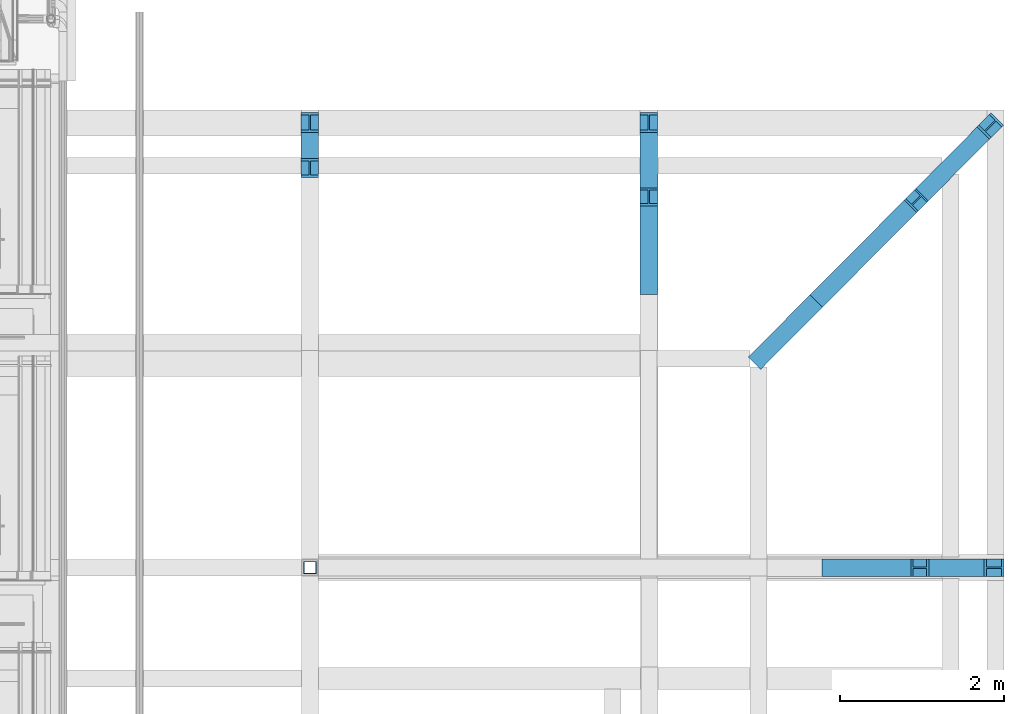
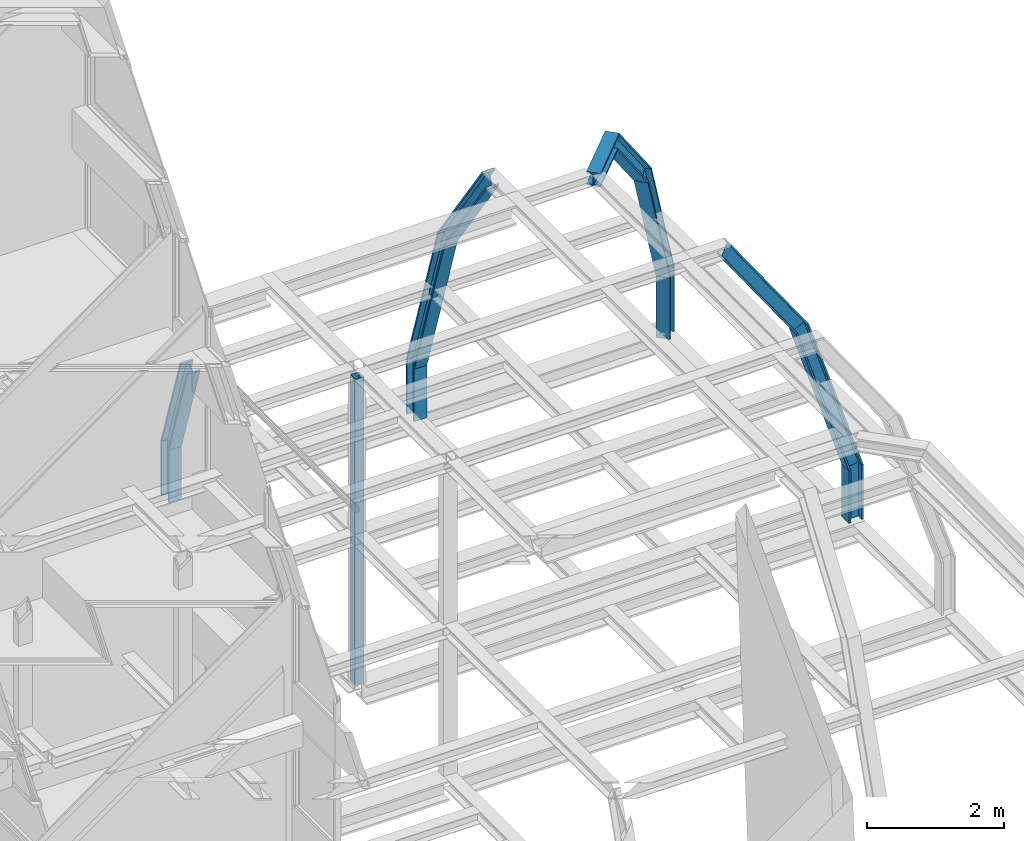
# One storey, part 3 of 583: 13 columns.
"""IFC2X3 building model written with IfcOpenShell, lengths in metres."""

import ifcopenshell
import ifcopenshell.guid

model = None  # the IFC model being written
_history = None  # IfcOwnerHistory: only IFC2X3 demands one
_inside = {}  # id of a spatial element -> (the spatial element, [elements in it])
_under = {}  # id of a project, library or spatial element -> (it, [spatial elements below it])
_declared = {}  # id of a project -> (the project, [libraries it declares])
_typed = {}  # id of a type object -> (the type object, [elements of that type])
_made_of = {}  # id of a material, layer set ... -> (it, [elements and type objects made of it])


def new_model(schema):
    """Start an empty IFC model of exactly this schema.

    Asked for "IFC4X3", IfcOpenShell would pick the latest addendum, in which some entities
    have other attributes; the version numbers below select the first issue.
    IFC2X3 requires an IfcOwnerHistory on every rooted entity: one is made here for all.
    """
    global model, _history
    if schema == "IFC4X3":
        model = ifcopenshell.file(schema_version=(4, 3, 0, 0))
    else:
        model = ifcopenshell.file(schema=schema)
    _inside.clear()
    _under.clear()
    _declared.clear()
    _typed.clear()
    _made_of.clear()
    _history = None
    if model.schema == "IFC2X3":
        org = make("IfcOrganization", Name="unknown")
        user = make(
            "IfcPersonAndOrganization",
            ThePerson=make("IfcPerson", FamilyName="unknown"),
            TheOrganization=org,
        )
        app = make(
            "IfcApplication",
            ApplicationDeveloper=org,
            Version="unknown",
            ApplicationFullName="unknown",
            ApplicationIdentifier="unknown",
        )
        _history = make(
            "IfcOwnerHistory",
            OwningUser=user,
            OwningApplication=app,
            ChangeAction="ADDED",
            CreationDate=0,
        )
    return model


def make(cls, **values):
    """One entity of the class cls with the attributes given. An attribute that is None is left unset."""
    return model.create_entity(
        cls, **{name: value for name, value in values.items() if value is not None}
    )


def entity(cls, *values):
    """Any entity or typed value of the class cls, its attributes in the order of the schema. None: left unset."""
    e = model.create_entity(cls)
    for i, value in enumerate(values):
        if value is not None:
            e[i] = value
    return e


def rooted(cls, **values):
    """An entity with a GlobalId (a new one), such as an element, a storey or a relation."""
    return make(cls, GlobalId=ifcopenshell.guid.new(), OwnerHistory=_history, **values)


def si_unit(unit_type, name, prefix=None):
    """IfcSIUnit, for example si_unit("LENGTHUNIT", "METRE", prefix="MILLI")."""
    return make("IfcSIUnit", UnitType=unit_type, Prefix=prefix, Name=name)


def converted_unit(unit_type, name, factor, base, dimensions=None, offset=None):
    """IfcConversionBasedUnit, such as the inch: factor (a typed value) times the base unit."""
    return make(
        "IfcConversionBasedUnit"
        if offset is None
        else "IfcConversionBasedUnitWithOffset",
        ConversionOffset=offset,
        Dimensions=None
        if dimensions is None
        else entity("IfcDimensionalExponents", *dimensions),
        UnitType=unit_type,
        Name=name,
        ConversionFactor=make(
            "IfcMeasureWithUnit", ValueComponent=factor, UnitComponent=base
        ),
    )


def derived_unit(unit_type, elements):
    """IfcDerivedUnit: a product of units, each with its exponent."""
    return make(
        "IfcDerivedUnit",
        Elements=[
            make("IfcDerivedUnitElement", Unit=unit, Exponent=power)
            for unit, power in elements
        ],
        UnitType=unit_type,
    )


def money_unit(currency):
    """IfcMonetaryUnit."""
    return make("IfcMonetaryUnit", Currency=currency)


def assignment(units):
    """IfcUnitAssignment: the units of a project."""
    return None if units is None else make("IfcUnitAssignment", Units=units)


def point(xyz):
    """IfcCartesianPoint."""
    return None if xyz is None else make("IfcCartesianPoint", Coordinates=xyz)


def direction(xyz):
    """IfcDirection."""
    return None if xyz is None else make("IfcDirection", DirectionRatios=xyz)


def frame(location, z_axis=None, x_axis=None):
    """IfcAxis2Placement3D, a coordinate frame: its origin and axes. An axis left out is left unset."""
    return make(
        "IfcAxis2Placement3D",
        Location=point(location),
        Axis=direction(z_axis),
        RefDirection=direction(x_axis),
    )


def origin_with_axes():
    """The frame at (0, 0, 0) with the z axis (0, 0, 1) and the x axis (1, 0, 0) written out."""
    return frame((0.0, 0.0, 0.0), z_axis=(0.0, 0.0, 1.0), x_axis=(1.0, 0.0, 0.0))


def place(relative_to, where):
    """IfcLocalPlacement: puts the frame where relative to a parent placement (None: the world)."""
    return make(
        "IfcLocalPlacement", PlacementRelTo=relative_to, RelativePlacement=where
    )


def context(
    kind, dimensions, precision=None, world=None, true_north=None, identifier=None
):
    """IfcGeometricRepresentationContext, for example the 3D "Model" context."""
    return make(
        "IfcGeometricRepresentationContext",
        ContextIdentifier=identifier,
        ContextType=kind,
        CoordinateSpaceDimension=dimensions,
        Precision=precision,
        WorldCoordinateSystem=world,
        TrueNorth=true_north,
    )


def subcontext(parent, identifier, kind, view, scale=None):
    """IfcGeometricRepresentationSubContext, for example "Body" below "Model"."""
    return make(
        "IfcGeometricRepresentationSubContext",
        ContextIdentifier=identifier,
        ContextType=kind,
        ParentContext=parent,
        TargetScale=scale,
        TargetView=view,
    )


def project(units=None, contexts=None):
    """IfcProject with its units and contexts."""
    return rooted(
        "IfcProject",
        Name="project",
        RepresentationContexts=contexts,
        UnitsInContext=assignment(units),
    )


def spatial(cls, under=None, at=None, **own):
    """A site, building, storey or space (cls), placed at a placement, below another one or the project."""
    s = rooted(cls, ObjectPlacement=at, **own)
    if under is not None:
        _under.setdefault(under.id(), (under, []))[1].append(s)
    return s


def polyline(points):
    """IfcPolyline through the points."""
    return make("IfcPolyline", Points=[point(p) for p in points])


def outline(outer, holes=None, kind="AREA"):
    """IfcArbitraryClosedProfileDef: a profile drawn as a closed curve; with holes, ...WithVoids."""
    if holes is None:
        return make("IfcArbitraryClosedProfileDef", ProfileType=kind, OuterCurve=outer)
    return make(
        "IfcArbitraryProfileDefWithVoids",
        ProfileType=kind,
        OuterCurve=outer,
        InnerCurves=holes,
    )


def extrude(swept, where, along, depth):
    """IfcExtrudedAreaSolid: the profile swept, set in the frame where, extruded along a direction by depth."""
    return make(
        "IfcExtrudedAreaSolid",
        SweptArea=swept,
        Position=where,
        ExtrudedDirection=direction(along),
        Depth=depth,
    )


def clip(a, b, op="DIFFERENCE"):
    """IfcBooleanClippingResult: the solid a cut by the half space b."""
    return make(
        "IfcBooleanClippingResult", Operator=op, FirstOperand=a, SecondOperand=b
    )


def halfspace(plane, agree):
    """IfcHalfSpaceSolid: all space on one side of the plane z = 0 of the frame plane."""
    return make(
        "IfcHalfSpaceSolid",
        BaseSurface=make("IfcPlane", Position=plane),
        AgreementFlag=agree,
    )


def shape(context_of_items, identifier, shape_type, items):
    """IfcShapeRepresentation: the items that make up one representation, for example the "Body"."""
    return make(
        "IfcShapeRepresentation",
        ContextOfItems=context_of_items,
        RepresentationIdentifier=identifier,
        RepresentationType=shape_type,
        Items=items,
    )


def material(Name=None, Category=None):
    """IfcMaterial."""
    return make("IfcMaterial", Name=Name, Category=Category)


def made_of(thing, what):
    """Note that an element or type object is made of a material, layer set ...; save() writes the relation."""
    if what is not None:
        _made_of.setdefault(what.id(), (what, []))[1].append(thing)
    return thing


def type_object(cls, material=None, **own):
    """A type object (cls), such as IfcWallType, which elements share."""
    return made_of(rooted(cls, **own), material)


def element(
    cls,
    number,
    at=None,
    inside=None,
    cuts=None,
    type_object=None,
    material=None,
    context=None,
    identifier="Body",
    shape_type=None,
    held_by="IfcProductDefinitionShape",
    body=None,
    shapes=None,
    **own,
):
    """One element of the class cls, such as IfcWall. Its Tag is "e" and its number.

    at: its placement. inside: the storey or other place that contains it. cuts: it is an
    opening in that element (IfcRelVoidsElement). A single representation is given by context,
    identifier, shape_type and body (its items); several are given by shapes. held_by: the class
    of the entity that holds the representations. save() writes the other relations.
    """
    e = rooted(cls, Tag="e%d" % number, ObjectPlacement=at, **own)
    if body is not None:
        shapes = [shape(context, identifier, shape_type, body)]
    if shapes is not None:
        e.Representation = make(held_by, Representations=shapes)
    if inside is not None:
        _inside.setdefault(inside.id(), (inside, []))[1].append(e)
    if cuts is not None:
        rooted(
            "IfcRelVoidsElement", RelatingBuildingElement=cuts, RelatedOpeningElement=e
        )
    if type_object is not None:
        _typed.setdefault(type_object.id(), (type_object, []))[1].append(e)
    return made_of(e, material)


def aggregate(whole, parts):
    """IfcRelAggregates: a whole, such as a stair, and the parts it consists of."""
    return rooted("IfcRelAggregates", RelatingObject=whole, RelatedObjects=parts)


def save(model, path):
    """Write the relations noted so far, then the file.

    IfcRelAggregates (storeys below a building ...), IfcRelContainedInSpatialStructure (elements
    in a storey), IfcRelDefinesByType, IfcRelAssociatesMaterial and IfcRelDeclares: one each for
    every whole, place, type object, material and project.
    """
    for whole, parts in _under.values():
        aggregate(whole, parts)
    for where, things in _inside.values():
        rooted(
            "IfcRelContainedInSpatialStructure",
            RelatedElements=things,
            RelatingStructure=where,
        )
    for kind, things in _typed.values():
        rooted("IfcRelDefinesByType", RelatedObjects=things, RelatingType=kind)
    for what, things in _made_of.values():
        rooted("IfcRelAssociatesMaterial", RelatedObjects=things, RelatingMaterial=what)
    for by, libraries in _declared.values():
        rooted("IfcRelDeclares", RelatingContext=by, RelatedDefinitions=libraries)
    model.write(path)


model = new_model("IFC2X3")

# Units and contexts
model_context = context("Model", 3, precision=1e-05, world=origin_with_axes(), true_north=direction((0.0, 1.0)))
body_context = subcontext(model_context, "Body", "Model", "MODEL_VIEW", scale=1.0)
ifc_project = project(units=[si_unit("LENGTHUNIT", "METRE"), si_unit("AREAUNIT", "SQUARE_METRE"), si_unit("VOLUMEUNIT", "CUBIC_METRE"), si_unit("ABSORBEDDOSEUNIT", "GRAY"), si_unit("AMOUNTOFSUBSTANCEUNIT", "MOLE"), si_unit("DOSEEQUIVALENTUNIT", "SIEVERT"), si_unit("ELECTRICCAPACITANCEUNIT", "FARAD"), si_unit("ELECTRICCHARGEUNIT", "COULOMB"), si_unit("ELECTRICCONDUCTANCEUNIT", "SIEMENS"), si_unit("ELECTRICCURRENTUNIT", "AMPERE"), si_unit("ELECTRICRESISTANCEUNIT", "OHM"), si_unit("ELECTRICVOLTAGEUNIT", "VOLT"), si_unit("ENERGYUNIT", "JOULE"), si_unit("FORCEUNIT", "NEWTON"), si_unit("FREQUENCYUNIT", "HERTZ"), si_unit("ILLUMINANCEUNIT", "LUX"), si_unit("INDUCTANCEUNIT", "HENRY"), si_unit("LUMINOUSFLUXUNIT", "LUMEN"), si_unit("LUMINOUSINTENSITYUNIT", "CANDELA"), si_unit("MAGNETICFLUXDENSITYUNIT", "TESLA"), si_unit("MAGNETICFLUXUNIT", "WEBER"), si_unit("MASSUNIT", "GRAM"), converted_unit("PLANEANGLEUNIT", "degree", entity("IfcReal", 0.0174532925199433), si_unit("PLANEANGLEUNIT", "RADIAN"), dimensions=[0, 0, 0, 0, 0, 0, 0]), si_unit("POWERUNIT", "WATT"), si_unit("PRESSUREUNIT", "PASCAL"), si_unit("RADIOACTIVITYUNIT", "BECQUEREL"), si_unit("SOLIDANGLEUNIT", "STERADIAN"), si_unit("THERMODYNAMICTEMPERATUREUNIT", "KELVIN"), si_unit("TIMEUNIT", "SECOND"), derived_unit("ACCELERATIONUNIT", [(si_unit("LENGTHUNIT", "METRE"), 1), (si_unit("TIMEUNIT", "SECOND"), -2)]), derived_unit("ANGULARVELOCITYUNIT", [(converted_unit("PLANEANGLEUNIT", "degree", entity("IfcReal", 0.0174532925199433), si_unit("PLANEANGLEUNIT", "RADIAN"), dimensions=[0, 0, 0, 0, 0, 0, 0]), 1), (si_unit("TIMEUNIT", "SECOND"), -1)]), derived_unit("CURVATUREUNIT", [(converted_unit("PLANEANGLEUNIT", "degree", entity("IfcReal", 0.0174532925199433), si_unit("PLANEANGLEUNIT", "RADIAN"), dimensions=[0, 0, 0, 0, 0, 0, 0]), 1), (si_unit("LENGTHUNIT", "METRE"), -1)]), derived_unit("DYNAMICVISCOSITYUNIT", [(si_unit("PRESSUREUNIT", "PASCAL"), 1), (si_unit("TIMEUNIT", "SECOND"), 1)]), derived_unit("HEATFLUXDENSITYUNIT", [(si_unit("POWERUNIT", "WATT"), 1), (si_unit("LENGTHUNIT", "METRE"), -2)]), derived_unit("HEATINGVALUEUNIT", [(si_unit("ENERGYUNIT", "JOULE"), 1), (si_unit("MASSUNIT", "GRAM"), -1)]), derived_unit("INTEGERCOUNTRATEUNIT", [(si_unit("TIMEUNIT", "SECOND"), -1)]), derived_unit("IONCONCENTRATIONUNIT", [(si_unit("MASSUNIT", "GRAM"), 1), (si_unit("VOLUMEUNIT", "CUBIC_METRE"), -1)]), derived_unit("ISOTHERMALMOISTURECAPACITYUNIT", [(si_unit("VOLUMEUNIT", "CUBIC_METRE"), 1), (si_unit("MASSUNIT", "GRAM"), -1)]), derived_unit("KINEMATICVISCOSITYUNIT", [(si_unit("AREAUNIT", "SQUARE_METRE"), 1), (si_unit("TIMEUNIT", "SECOND"), -1)]), derived_unit("LINEARFORCEUNIT", [(si_unit("FORCEUNIT", "NEWTON"), 1), (si_unit("LENGTHUNIT", "METRE"), -1)]), derived_unit("LINEARMOMENTUNIT", [(si_unit("FORCEUNIT", "NEWTON"), 1), (si_unit("LENGTHUNIT", "METRE"), -1)]), derived_unit("LINEARSTIFFNESSUNIT", [(si_unit("FORCEUNIT", "NEWTON"), 1), (si_unit("LENGTHUNIT", "METRE"), -1)]), derived_unit("LINEARVELOCITYUNIT", [(si_unit("LENGTHUNIT", "METRE"), 1), (si_unit("TIMEUNIT", "SECOND"), -1)]), derived_unit("LUMINOUSINTENSITYDISTRIBUTIONUNIT", [(si_unit("LUMINOUSINTENSITYUNIT", "CANDELA"), 1), (si_unit("LUMINOUSFLUXUNIT", "LUMEN"), -1)]), derived_unit("MASSDENSITYUNIT", [(si_unit("MASSUNIT", "GRAM"), 1), (si_unit("VOLUMEUNIT", "CUBIC_METRE"), -1)]), derived_unit("MASSFLOWRATEUNIT", [(si_unit("MASSUNIT", "GRAM"), 1), (si_unit("TIMEUNIT", "SECOND"), -1)]), derived_unit("MASSPERLENGTHUNIT", [(si_unit("MASSUNIT", "GRAM"), 1), (si_unit("LENGTHUNIT", "METRE"), -1)]), derived_unit("MODULUSOFELASTICITYUNIT", [(si_unit("FORCEUNIT", "NEWTON"), 1), (si_unit("AREAUNIT", "SQUARE_METRE"), -1)]), derived_unit("MODULUSOFLINEARSUBGRADEREACTIONUNIT", [(si_unit("FORCEUNIT", "NEWTON"), 1), (si_unit("LENGTHUNIT", "METRE"), -2)]), derived_unit("MODULUSOFROTATIONALSUBGRADEREACTIONUNIT", [(si_unit("FORCEUNIT", "NEWTON"), 1), (si_unit("LENGTHUNIT", "METRE"), 1)]), derived_unit("MODULUSOFSUBGRADEREACTIONUNIT", [(si_unit("FORCEUNIT", "NEWTON"), 1), (si_unit("VOLUMEUNIT", "CUBIC_METRE"), -1)]), derived_unit("MOISTUREDIFFUSIVITYUNIT", [(si_unit("VOLUMEUNIT", "CUBIC_METRE"), 1), (si_unit("TIMEUNIT", "SECOND"), -1)]), derived_unit("MOLECULARWEIGHTUNIT", [(si_unit("MASSUNIT", "GRAM"), 1), (si_unit("AMOUNTOFSUBSTANCEUNIT", "MOLE"), -1)]), derived_unit("PLANARFORCEUNIT", [(si_unit("FORCEUNIT", "NEWTON"), 1), (si_unit("LENGTHUNIT", "METRE"), -2)]), derived_unit("ROTATIONALFREQUENCYUNIT", [(si_unit("TIMEUNIT", "SECOND"), -1)]), derived_unit("ROTATIONALMASSUNIT", [(si_unit("MASSUNIT", "GRAM"), 1), (si_unit("LENGTHUNIT", "METRE"), 2)]), derived_unit("ROTATIONALSTIFFNESSUNIT", [(si_unit("FORCEUNIT", "NEWTON"), 1), (si_unit("LENGTHUNIT", "METRE"), 1), (converted_unit("PLANEANGLEUNIT", "degree", entity("IfcReal", 0.0174532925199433), si_unit("PLANEANGLEUNIT", "RADIAN"), dimensions=[0, 0, 0, 0, 0, 0, 0]), -1)]), derived_unit("SECTIONAREAINTEGRALUNIT", [(si_unit("LENGTHUNIT", "METRE"), 5)]), derived_unit("SECTIONMODULUSUNIT", [(si_unit("LENGTHUNIT", "METRE"), 3)]), derived_unit("SHEARMODULUSUNIT", [(si_unit("FORCEUNIT", "NEWTON"), 1), (si_unit("AREAUNIT", "SQUARE_METRE"), -1)]), derived_unit("SOUNDPOWERUNIT", [(si_unit("ENERGYUNIT", "JOULE"), 1), (si_unit("TIMEUNIT", "SECOND"), -1)]), derived_unit("SPECIFICHEATCAPACITYUNIT", [(si_unit("FORCEUNIT", "NEWTON"), 1), (si_unit("MASSUNIT", "GRAM"), -1), (si_unit("THERMODYNAMICTEMPERATUREUNIT", "KELVIN"), -1)]), derived_unit("TEMPERATUREGRADIENTUNIT", [(si_unit("THERMODYNAMICTEMPERATUREUNIT", "KELVIN"), 1), (si_unit("LENGTHUNIT", "METRE"), -1)]), derived_unit("THERMALADMITTANCEUNIT", [(si_unit("POWERUNIT", "WATT"), 1), (si_unit("AREAUNIT", "SQUARE_METRE"), -1), (si_unit("THERMODYNAMICTEMPERATUREUNIT", "KELVIN"), -1)]), derived_unit("THERMALCONDUCTANCEUNIT", [(si_unit("POWERUNIT", "WATT"), 1), (si_unit("LENGTHUNIT", "METRE"), -1), (si_unit("THERMODYNAMICTEMPERATUREUNIT", "KELVIN"), -1)]), derived_unit("THERMALEXPANSIONCOEFFICIENTUNIT", [(si_unit("THERMODYNAMICTEMPERATUREUNIT", "KELVIN"), -1)]), derived_unit("THERMALRESISTANCEUNIT", [(si_unit("AREAUNIT", "SQUARE_METRE"), 1), (si_unit("POWERUNIT", "WATT"), -1)]), derived_unit("THERMALTRANSMITTANCEUNIT", [(si_unit("POWERUNIT", "WATT"), 1), (si_unit("AREAUNIT", "SQUARE_METRE"), -1), (si_unit("THERMODYNAMICTEMPERATUREUNIT", "KELVIN"), -1)]), derived_unit("TORQUEUNIT", [(si_unit("FORCEUNIT", "NEWTON"), 1), (si_unit("LENGTHUNIT", "METRE"), 1)]), derived_unit("VAPORPERMEABILITYUNIT", [(si_unit("MASSUNIT", "GRAM"), 1), (si_unit("TIMEUNIT", "SECOND"), -1)]), derived_unit("VOLUMETRICFLOWRATEUNIT", [(si_unit("VOLUMEUNIT", "CUBIC_METRE"), 1), (si_unit("TIMEUNIT", "SECOND"), -1)]), derived_unit("WARPINGCONSTANTUNIT", [(si_unit("LENGTHUNIT", "METRE"), 6)]), derived_unit("WARPINGMOMENTUNIT", [(si_unit("FORCEUNIT", "NEWTON"), 1), (si_unit("LENGTHUNIT", "METRE"), 2)]), money_unit("GBP")], contexts=[model_context])

# Site, building, storey
site_placement = place(None, origin_with_axes())
site = spatial("IfcSite", under=ifc_project, at=site_placement, Name="Site", CompositionType="ELEMENT")
building_placement = place(site_placement, origin_with_axes())
building = spatial("IfcBuilding", under=site, at=building_placement, Name="Building01", CompositionType="ELEMENT")
storey_placement = place(building_placement, frame((0.0, 0.0, 20.78), z_axis=(0.0, 0.0, 1.0), x_axis=(1.0, 0.0, 0.0)))
storey = spatial("IfcBuildingStorey", under=building, at=storey_placement, Name="RL", CompositionType="ELEMENT", Elevation=20.78)

# Columns
ifc_material = material(Name="A_BSUK_Columns_Steel")
column_type = type_object("IfcColumnType", Name="A-Columns-Steel", PredefinedType="COLUMN")
column_1_placement = place(storey_placement, frame((17.96, 8.8, -5.85), z_axis=(0.0, 0.0, 1.0), x_axis=(-1.0, 0.0, 0.0)))
element("IfcColumn", 1, at=column_1_placement, inside=storey, type_object=column_type, material=ifc_material, Name="A-Columns-Steel", ObjectType="A-Columns-Steel", context=body_context, shape_type="SweptSolid", body=[
    extrude(outline(polyline([(0.075, 0.075), (0.075, -0.075), (-0.075, -0.075), (-0.075, 0.075), (0.075, 0.075)]), holes=[polyline([(0.07, 0.07), (-0.07, 0.07), (-0.07, -0.07), (0.07, -0.07), (0.07, 0.07)])]), origin_with_axes(), (0.0, 0.0, 1.0), 5.4468),
])
column_2_placement = place(storey_placement, frame((17.85305, 14.3451, -4.880056), z_axis=(0.0, 0.0, -1.0), x_axis=(0.0, -1.0, 0.0)))
element("IfcColumn", 2, at=column_2_placement, inside=storey, type_object=column_type, material=ifc_material, Name="A2", ObjectType="A-Columns-Steel", context=body_context, shape_type="Clipping", body=[
    clip(extrude(outline(polyline([(0.0301, 0.0), (0.0301, -0.0979), (0.2113, -0.0979), (0.2113, 0.0), (0.2414, 0.0), (0.2414, -0.2139), (0.2113, -0.2139), (0.2113, -0.116), (0.0301, -0.116), (0.0301, -0.2139), (0.0, -0.2139), (0.0, 0.0), (0.0301, 0.0)])), origin_with_axes(), (0.0, 0.0, 1.0), 0.969944), halfspace(frame((0.0, 0.0, 0.0), z_axis=(-0.15643447, 0.0, 0.98768834), x_axis=(0.98768834, 0.0, 0.15643447)), True)),
])
column_3_placement = place(storey_placement, frame((18.06695, 13.556947, -3.235557), z_axis=(0.0, 0.30901699, -0.95105652), x_axis=(0.0, 0.95105652, 0.30901699)))
element("IfcColumn", 3, at=column_3_placement, inside=storey, type_object=column_type, material=ifc_material, Name="A2", ObjectType="A-Columns-Steel", context=body_context, shape_type="Clipping", body=[
    clip(clip(extrude(outline(polyline([(0.0301, 0.0), (0.0301, -0.0979), (0.2113, -0.0979), (0.2113, 0.0), (0.2414, 0.0), (0.2414, -0.2139), (0.2113, -0.2139), (0.2113, -0.116), (0.0301, -0.116), (0.0301, -0.2139), (0.0, -0.2139), (0.0, 0.0), (0.0301, 0.0)])), origin_with_axes(), (0.0, 0.0, 1.0), 1.807564), halfspace(frame((-0.273376, 0.0, 1.726031), z_axis=(0.15643447, 0.0, -0.98768834), x_axis=(-0.98768834, 0.0, -0.15643447)), True)), halfspace(frame((-0.164116, 0.0, -1.098125), z_axis=(0.14780941, 0.0, 0.98901586), x_axis=(0.98901586, 0.0, -0.14780941)), True)),
])
column_4_placement = place(storey_placement, frame((21.98305, 14.3451, -4.880056), z_axis=(0.0, 0.0, -1.0), x_axis=(0.0, -1.0, 0.0)))
element("IfcColumn", 4, at=column_4_placement, inside=storey, type_object=column_type, material=ifc_material, Name="A2", ObjectType="A-Columns-Steel", context=body_context, shape_type="Clipping", body=[
    clip(extrude(outline(polyline([(0.0301, 0.0), (0.0301, -0.0979), (0.2113, -0.0979), (0.2113, 0.0), (0.2414, 0.0), (0.2414, -0.2139), (0.2113, -0.2139), (0.2113, -0.116), (0.0301, -0.116), (0.0301, -0.2139), (0.0, -0.2139), (0.0, 0.0), (0.0301, 0.0)])), origin_with_axes(), (0.0, 0.0, 1.0), 0.969944), halfspace(frame((0.0, 0.0, 0.0), z_axis=(-0.15643447, 0.0, 0.98768834), x_axis=(0.98768834, 0.0, 0.15643447)), True)),
])
column_5_placement = place(storey_placement, frame((22.19695, 13.19888, -2.13354), z_axis=(0.0, 0.30901699, -0.95105652), x_axis=(0.0, 0.95105652, 0.30901699)))
element("IfcColumn", 5, at=column_5_placement, inside=storey, type_object=column_type, material=ifc_material, Name="A2", ObjectType="A-Columns-Steel", context=body_context, shape_type="Clipping", body=[
    clip(clip(extrude(outline(polyline([(0.0301, 0.0), (0.0301, -0.0979), (0.2113, -0.0979), (0.2113, 0.0), (0.2414, 0.0), (0.2414, -0.2139), (0.2113, -0.2139), (0.2113, -0.116), (0.0301, -0.116), (0.0301, -0.2139), (0.0, -0.2139), (0.0, 0.0), (0.0301, 0.0)])), origin_with_axes(), (0.0, 0.0, 1.0), 2.966293), halfspace(frame((-0.45241, 0.0, 2.856405), z_axis=(0.15643447, 0.0, -0.98768834), x_axis=(-0.98768834, 0.0, -0.15643447)), True)), halfspace(frame((0.005274, 0.0, 0.035289), z_axis=(0.14780941, 0.0, 0.98901586), x_axis=(0.98901586, 0.0, -0.14780941)), True)),
])
column_6_placement = place(storey_placement, frame((22.19695, 11.929076, -0.338461), z_axis=(0.0, 0.57357644, -0.81915204), x_axis=(0.0, 0.81915204, 0.57357644)))
element("IfcColumn", 6, at=column_6_placement, inside=storey, type_object=column_type, material=ifc_material, Name="A2", ObjectType="A-Columns-Steel", context=body_context, shape_type="Clipping", body=[
    clip(clip(extrude(outline(polyline([(0.0301, 0.0), (0.0301, -0.0979), (0.2113, -0.0979), (0.2113, 0.0), (0.2414, 0.0), (0.2414, -0.2139), (0.2113, -0.2139), (0.2113, -0.116), (0.0301, -0.116), (0.0301, -0.2139), (0.0, -0.2139), (0.0, 0.0), (0.0301, 0.0)])), origin_with_axes(), (0.0, 0.0, 1.0), 2.269351), halfspace(frame((0.051469, 0.0, 0.098872), z_axis=(0.46174861, 0.0, 0.88701083), x_axis=(0.88701083, 0.0, -0.46174861)), True)), halfspace(frame((-0.326473, 0.0, 2.184481), z_axis=(0.14780941, 0.0, -0.98901586), x_axis=(-0.98901586, 0.0, -0.14780941)), True)),
])
column_7_placement = place(storey_placement, frame((26.42, 8.69305, -5.85), z_axis=(0.0, 0.0, 1.0), x_axis=(0.0, 1.0, 0.0)))
element("IfcColumn", 7, at=column_7_placement, inside=storey, type_object=column_type, material=ifc_material, Name="A2", ObjectType="A-Columns-Steel", context=body_context, shape_type="Clipping", body=[
    clip(extrude(outline(polyline([(0.2139, 0.0), (0.2139, 0.0301), (0.116, 0.0301), (0.116, 0.2113), (0.2139, 0.2113), (0.2139, 0.2414), (0.0, 0.2414), (0.0, 0.2113), (0.0979, 0.2113), (0.0979, 0.0301), (0.0, 0.0301), (0.0, 0.0), (0.2139, 0.0)])), origin_with_axes(), (0.0, 0.0, 1.0), 0.969944), halfspace(frame((0.0, 0.149865, 0.946208), z_axis=(0.0, -0.15643447, -0.98768834), x_axis=(-1.0, 0.0, 0.0)), True)),
])
column_8_placement = place(storey_placement, frame((26.190415, 8.90695, -4.954652), z_axis=(-0.30901699, 0.0, 0.95105652), x_axis=(0.0, -1.0, 0.0)))
element("IfcColumn", 8, at=column_8_placement, inside=storey, type_object=column_type, material=ifc_material, Name="A2", ObjectType="A-Columns-Steel", context=body_context, shape_type="Clipping", body=[
    clip(clip(extrude(outline(polyline([(0.2139, 0.0), (0.2139, 0.0301), (0.116, 0.0301), (0.116, 0.2113), (0.2139, 0.2113), (0.2139, 0.2414), (0.0, 0.2414), (0.0, 0.2113), (0.0979, 0.2113), (0.0979, 0.0301), (0.0, 0.0301), (0.0, 0.0), (0.2139, 0.0)])), origin_with_axes(), (0.0, 0.0, 1.0), 2.966293), halfspace(frame((0.0, 0.005907, 0.037298), z_axis=(0.0, 0.15643447, 0.98768834), x_axis=(1.0, 0.0, 0.0)), True)), halfspace(frame((0.0, -0.428356, 2.866198), z_axis=(0.0, 0.14780941, -0.98901586), x_axis=(-1.0, 0.0, 0.0)), True)),
])
column_9_placement = place(storey_placement, frame((25.305622, 8.90695, -2.197404), z_axis=(-0.57357644, 0.0, 0.81915204), x_axis=(0.0, -1.0, 0.0)))
element("IfcColumn", 9, at=column_9_placement, inside=storey, type_object=column_type, material=ifc_material, Name="A2", ObjectType="A-Columns-Steel", context=body_context, shape_type="Clipping", body=[
    clip(clip(extrude(outline(polyline([(0.2139, 0.0), (0.2139, 0.0301), (0.116, 0.0301), (0.116, 0.2113), (0.2139, 0.2113), (0.2139, 0.2414), (0.0, 0.2414), (0.0, 0.2113), (0.0979, 0.2113), (0.0979, 0.0301), (0.0, 0.0301), (0.0, 0.0), (0.2139, 0.0)])), origin_with_axes(), (0.0, 0.0, 1.0), 2.269351), halfspace(frame((0.0, -0.878002, 1.686627), z_axis=(0.0, 0.46174861, -0.88701083), x_axis=(-1.0, 0.0, 0.0)), True)), halfspace(frame((0.0, 0.005274, 0.035289), z_axis=(0.0, 0.14780941, 0.98901586), x_axis=(1.0, 0.0, 0.0)), True)),
])
column_10_placement = place(storey_placement, frame((26.263395, 14.3451, -4.682751), z_axis=(0.0, 0.0, -1.0), x_axis=(-0.70520005, -0.70900839, 0.0)))
element("IfcColumn", 10, at=column_10_placement, inside=storey, type_object=column_type, material=ifc_material, Name="A2", ObjectType="A-Columns-Steel", context=body_context, shape_type="Clipping", body=[
    clip(extrude(outline(polyline([(0.0301, 0.0), (0.0301, -0.0979), (0.2113, -0.0979), (0.2113, 0.0), (0.2414, 0.0), (0.2414, -0.2139), (0.2113, -0.2139), (0.2113, -0.116), (0.0301, -0.116), (0.0301, -0.2139), (0.0, -0.2139), (0.0, 0.0), (0.0301, 0.0)])), origin_with_axes(), (0.0, 0.0, 1.0), 1.148249), halfspace(frame((0.0, 0.0, 0.0), z_axis=(-0.2273944, 0.0, 0.97380274), x_axis=(0.97380274, 0.0, 0.2273944)), True)),
])
column_11_placement = place(storey_placement, frame((25.344632, 13.118057, -2.1549), z_axis=(0.31231518, 0.3140018, -0.89658357), x_axis=(0.63227078, 0.63568527, 0.44287459)))
element("IfcColumn", 11, at=column_11_placement, inside=storey, type_object=column_type, material=ifc_material, Name="A2", ObjectType="A-Columns-Steel", context=body_context, shape_type="Clipping", body=[
    clip(clip(extrude(outline(polyline([(0.0301, 0.0), (0.0301, -0.0979), (0.2113, -0.0979), (0.2113, 0.0), (0.2414, 0.0), (0.2414, -0.2139), (0.2113, -0.2139), (0.2113, -0.116), (0.0301, -0.116), (0.0301, -0.2139), (0.0, -0.2139), (0.0, 0.0), (0.0301, 0.0)])), origin_with_axes(), (0.0, 0.0, 1.0), 2.938667), halfspace(frame((0.006197, 0.0, 0.038178), z_axis=(0.16022129, 0.0, 0.98708112), x_axis=(0.98708112, 0.0, -0.16022129)), True)), halfspace(frame((-0.638248, 0.0, 2.733258), z_axis=(0.2273944, 0.0, -0.97380274), x_axis=(-0.97380274, 0.0, -0.2273944)), True)),
])
column_12_placement = place(storey_placement, frame((24.085476, 11.852101, -0.36988), z_axis=(0.49626941, 0.49894945, -0.71046894), x_axis=(0.50102273, 0.50372844, 0.70372855)))
element("IfcColumn", 12, at=column_12_placement, inside=storey, type_object=column_type, material=ifc_material, Name="A2", ObjectType="A-Columns-Steel", context=body_context, shape_type="Clipping", body=[
    clip(clip(extrude(outline(polyline([(0.0301, 0.0), (0.0301, -0.0979), (0.2113, -0.0979), (0.2113, 0.0), (0.2414, 0.0), (0.2414, -0.2139), (0.2113, -0.2139), (0.2113, -0.116), (0.0301, -0.116), (0.0301, -0.2139), (0.0, -0.2139), (0.0, 0.0), (0.0301, 0.0)])), origin_with_axes(), (0.0, 0.0, 1.0), 2.601085), halfspace(frame((-0.405168, 0.0, 2.496136), z_axis=(0.16022129, 0.0, -0.98708112), x_axis=(-0.98708112, 0.0, -0.16022129)), True)), halfspace(frame((0.03576, 0.0, 0.085754), z_axis=(0.38488404, 0.0, 0.92296494), x_axis=(0.92296494, 0.0, -0.38488404)), True)),
])
column_13_placement = place(storey_placement, frame((23.303482, 11.369202, -0.2), z_axis=(0.70520005, 0.70900839, 0.0), x_axis=(0.70900839, -0.70520005, 0.0)))
element("IfcColumn", 13, at=column_13_placement, inside=storey, type_object=column_type, material=ifc_material, Name="A2", ObjectType="A-Columns-Steel", context=body_context, shape_type="Clipping", body=[
    clip(clip(extrude(outline(polyline([(0.2139, 0.0), (0.2139, 0.0301), (0.116, 0.0301), (0.116, 0.2113), (0.2139, 0.2113), (0.2139, 0.2414), (0.0, 0.2414), (0.0, 0.2113), (0.0979, 0.2113), (0.0979, 0.0301), (0.0, 0.0301), (0.0, 0.0), (0.2139, 0.0)])), origin_with_axes(), (0.0, 0.0, 1.0), 1.065348), halfspace(frame((0.0, 0.378448, 0.907532), z_axis=(0.0, -0.38488404, -0.92296494), x_axis=(-1.0, 0.0, 0.0)), True)), halfspace(frame((0.0, 0.164605, 1.039277), z_axis=(0.0, -0.15643447, -0.98768834), x_axis=(-1.0, 0.0, 0.0)), True)),
])

save(model, "model.ifc")
